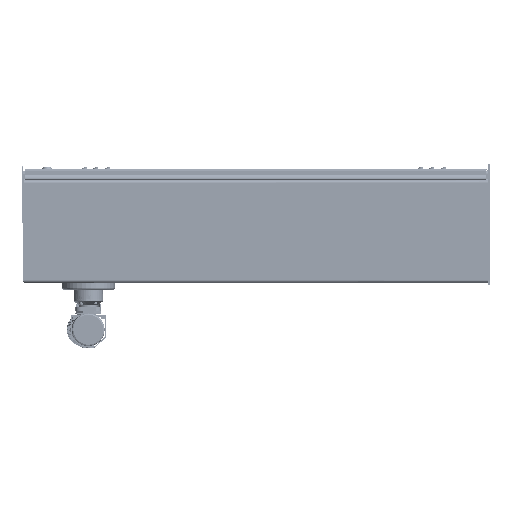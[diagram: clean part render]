
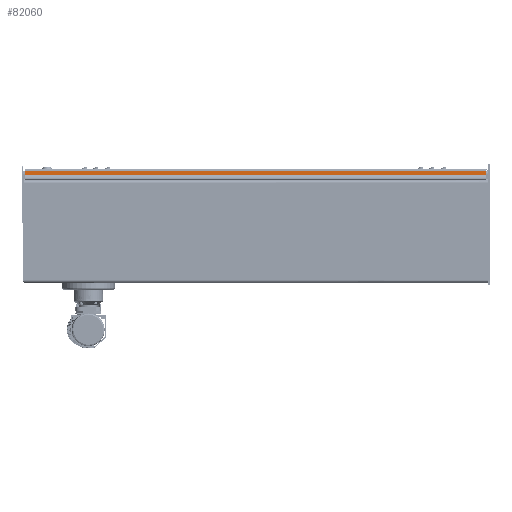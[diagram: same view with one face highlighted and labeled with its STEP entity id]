
A CAD part, left-side view. The second image highlights one B-rep face of the part: STEP entity #82060.
In plain terms, the highlighted planar face has unit normal (-1, 0, 0).
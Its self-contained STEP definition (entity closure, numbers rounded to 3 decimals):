
#9739=LINE('',#160263,#17658);
#9742=LINE('',#160272,#17661);
#9746=LINE('',#160279,#17665);
#9747=LINE('',#160280,#17666);
#17658=VECTOR('',#122902,1000.);
#17661=VECTOR('',#122909,1000.);
#17665=VECTOR('',#122917,1000.);
#17666=VECTOR('',#122918,1000.);
#38467=ORIENTED_EDGE('',*,*,#51447,.T.);
#38468=ORIENTED_EDGE('',*,*,#51439,.T.);
#38469=ORIENTED_EDGE('',*,*,#51448,.T.);
#38470=ORIENTED_EDGE('',*,*,#51443,.T.);
#51439=EDGE_CURVE('',#59555,#59554,#9739,.T.);
#51443=EDGE_CURVE('',#59559,#59558,#9742,.T.);
#51447=EDGE_CURVE('',#59558,#59555,#9746,.T.);
#51448=EDGE_CURVE('',#59554,#59559,#9747,.T.);
#59554=VERTEX_POINT('',#160262);
#59555=VERTEX_POINT('',#160264);
#59558=VERTEX_POINT('',#160271);
#59559=VERTEX_POINT('',#160273);
#68011=EDGE_LOOP('',(#38467,#38468,#38469,#38470));
#74036=FACE_BOUND('',#68011,.T.);
#77836=PLANE('',#102807);
#82060=ADVANCED_FACE('',(#74036),#77836,.T.);
#102807=AXIS2_PLACEMENT_3D('',#160278,#122915,#122916);
#122902=DIRECTION('',(0.,0.,-1.));
#122909=DIRECTION('',(0.,0.,1.));
#122915=DIRECTION('',(-1.,0.,0.));
#122916=DIRECTION('',(0.,-1.,0.));
#122917=DIRECTION('',(0.,1.,0.));
#122918=DIRECTION('',(0.,-1.,0.));
#160262=CARTESIAN_POINT('',(-152.5,-3.5,-494.));
#160263=CARTESIAN_POINT('',(-152.5,-3.5,494.));
#160264=CARTESIAN_POINT('',(-152.5,-3.5,494.));
#160271=CARTESIAN_POINT('',(-152.5,-20.,494.));
#160272=CARTESIAN_POINT('',(-152.5,-20.,-494.));
#160273=CARTESIAN_POINT('',(-152.5,-20.,-494.));
#160278=CARTESIAN_POINT('',(-152.5,0.,0.));
#160279=CARTESIAN_POINT('',(-152.5,-1.557,494.));
#160280=CARTESIAN_POINT('',(-152.5,-1.557,-494.));
